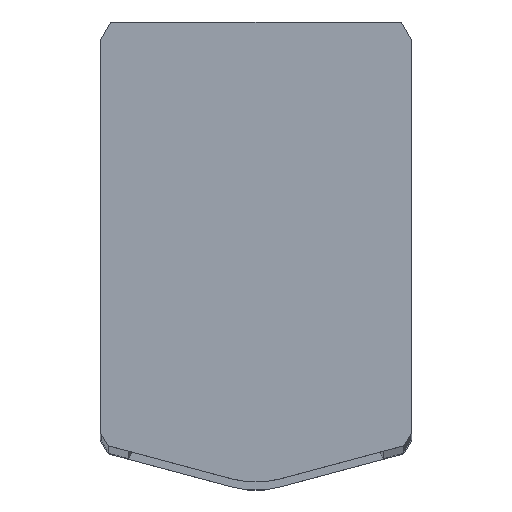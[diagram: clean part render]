
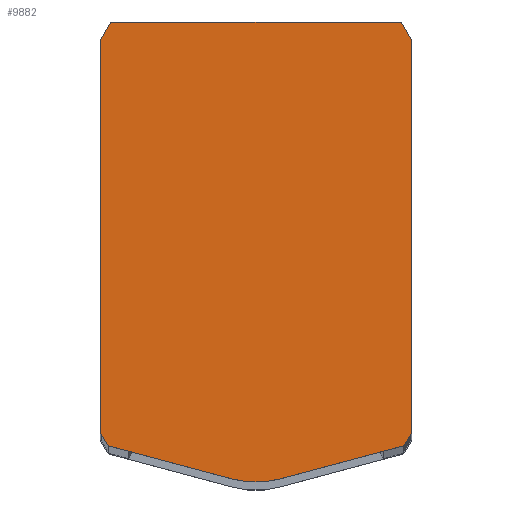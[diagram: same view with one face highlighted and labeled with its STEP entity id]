
A CAD part, top view. The second image highlights one B-rep face of the part: STEP entity #9882.
In plain terms, the highlighted planar face has unit normal (0, 0, 1).
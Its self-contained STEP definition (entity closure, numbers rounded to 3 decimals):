
#68 = EDGE_CURVE ( 'NONE', #7176, #3664, #5459, .T. ) ;
#183 = VECTOR ( 'NONE', #1050, 1000. ) ;
#388 = EDGE_LOOP ( 'NONE', ( #3106, #10863, #4552, #2708, #3976, #11197, #8753, #3258, #2324, #4873 ) ) ;
#761 = VECTOR ( 'NONE', #6496, 1000. ) ;
#818 = VERTEX_POINT ( 'NONE', #1181 ) ;
#1050 = DIRECTION ( 'NONE',  ( 0.5, -0.866, 0. ) ) ;
#1131 = CARTESIAN_POINT ( 'NONE',  ( 59.898, 88.863, 1008. ) ) ;
#1181 = CARTESIAN_POINT ( 'NONE',  ( -7.898, 88.863, 1008. ) ) ;
#1415 = CARTESIAN_POINT ( 'NONE',  ( 31.176, -6.431, 1008. ) ) ;
#1653 = CARTESIAN_POINT ( 'NONE',  ( 59.898, 88.863, 1008. ) ) ;
#1721 = VECTOR ( 'NONE', #3907, 1000. ) ;
#1850 = EDGE_CURVE ( 'NONE', #8459, #818, #10494, .T. ) ;
#1868 = LINE ( 'NONE', #2962, #761 ) ;
#1873 = VERTEX_POINT ( 'NONE', #2640 ) ;
#2059 = EDGE_CURVE ( 'NONE', #9901, #8459, #6445, .T. ) ;
#2324 = ORIENTED_EDGE ( 'NONE', *, *, #5188, .T. ) ;
#2437 = CARTESIAN_POINT ( 'NONE',  ( 20.824, -6.431, 1008. ) ) ;
#2440 = LINE ( 'NONE', #1415, #5086 ) ;
#2613 = CARTESIAN_POINT ( 'NONE',  ( 57.567, 92.9, 1008. ) ) ;
#2640 = CARTESIAN_POINT ( 'NONE',  ( 31.176, -6.431, 1008. ) ) ;
#2708 = ORIENTED_EDGE ( 'NONE', *, *, #10498, .T. ) ;
#2893 = EDGE_CURVE ( 'NONE', #5451, #8282, #9506, .T. ) ;
#2962 = CARTESIAN_POINT ( 'NONE',  ( 58.156, 0.798, 1008. ) ) ;
#3056 = DIRECTION ( 'NONE',  ( 0., -1., 0. ) ) ;
#3106 = ORIENTED_EDGE ( 'NONE', *, *, #8153, .T. ) ;
#3231 = CARTESIAN_POINT ( 'NONE',  ( -5.567, 92.9, 1008. ) ) ;
#3258 = ORIENTED_EDGE ( 'NONE', *, *, #4055, .T. ) ;
#3350 = DIRECTION ( 'NONE',  ( -0.5, 0.866, 0. ) ) ;
#3384 = CARTESIAN_POINT ( 'NONE',  ( -6.156, 0.798, 1008. ) ) ;
#3406 = DIRECTION ( 'NONE',  ( 1., 0., 0. ) ) ;
#3522 = AXIS2_PLACEMENT_3D ( 'NONE', #10444, #6941, #3406 ) ;
#3566 = CARTESIAN_POINT ( 'NONE',  ( -7.898, 3.815, 1008. ) ) ;
#3664 = VERTEX_POINT ( 'NONE', #10023 ) ;
#3835 = CARTESIAN_POINT ( 'NONE',  ( -7.898, 3.815, 1008. ) ) ;
#3866 = LINE ( 'NONE', #1653, #10162 ) ;
#3907 = DIRECTION ( 'NONE',  ( -1., 0., 0. ) ) ;
#3976 = ORIENTED_EDGE ( 'NONE', *, *, #68, .T. ) ;
#4055 = EDGE_CURVE ( 'NONE', #1873, #7348, #2440, .T. ) ;
#4280 = CARTESIAN_POINT ( 'NONE',  ( 58.156, 0.798, 1008. ) ) ;
#4295 = CARTESIAN_POINT ( 'NONE',  ( 59.898, 3.815, 1008. ) ) ;
#4330 = CARTESIAN_POINT ( 'NONE',  ( -5.567, 92.9, 1008. ) ) ;
#4427 = DIRECTION ( 'NONE',  ( 0., 1., 0. ) ) ;
#4552 = ORIENTED_EDGE ( 'NONE', *, *, #1850, .T. ) ;
#4856 = LINE ( 'NONE', #3384, #9342 ) ;
#4873 = ORIENTED_EDGE ( 'NONE', *, *, #2893, .T. ) ;
#4973 = DIRECTION ( 'NONE',  ( 0.966, 0.259, 0. ) ) ;
#5086 = VECTOR ( 'NONE', #4973, 1000. ) ;
#5188 = EDGE_CURVE ( 'NONE', #7348, #5451, #1868, .T. ) ;
#5211 = CARTESIAN_POINT ( 'NONE',  ( 26., 12.888, 1008. ) ) ;
#5345 = CARTESIAN_POINT ( 'NONE',  ( 59.898, 3.815, 1008. ) ) ;
#5451 = VERTEX_POINT ( 'NONE', #4295 ) ;
#5459 = LINE ( 'NONE', #3566, #183 ) ;
#5940 = DIRECTION ( 'NONE',  ( 0.966, -0.259, 0. ) ) ;
#6094 = DIRECTION ( 'NONE',  ( 1., 0., 0. ) ) ;
#6104 = CIRCLE ( 'NONE', #3522, 20. ) ;
#6445 = LINE ( 'NONE', #7546, #1721 ) ;
#6496 = DIRECTION ( 'NONE',  ( 0.5, 0.866, 0. ) ) ;
#6941 = DIRECTION ( 'NONE',  ( 0., 0., 1. ) ) ;
#6952 = VERTEX_POINT ( 'NONE', #2437 ) ;
#7119 = DIRECTION ( 'NONE',  ( 0., 0., 1. ) ) ;
#7176 = VERTEX_POINT ( 'NONE', #3835 ) ;
#7326 = EDGE_CURVE ( 'NONE', #6952, #1873, #6104, .T. ) ;
#7348 = VERTEX_POINT ( 'NONE', #4280 ) ;
#7506 = CARTESIAN_POINT ( 'NONE',  ( -7.898, 88.863, 1008. ) ) ;
#7546 = CARTESIAN_POINT ( 'NONE',  ( 57.567, 92.9, 1008. ) ) ;
#8153 = EDGE_CURVE ( 'NONE', #8282, #9901, #3866, .T. ) ;
#8282 = VERTEX_POINT ( 'NONE', #1131 ) ;
#8459 = VERTEX_POINT ( 'NONE', #3231 ) ;
#8753 = ORIENTED_EDGE ( 'NONE', *, *, #7326, .T. ) ;
#8874 = DIRECTION ( 'NONE',  ( -0.5, -0.866, 0. ) ) ;
#9342 = VECTOR ( 'NONE', #5940, 1000. ) ;
#9394 = VECTOR ( 'NONE', #8874, 1000. ) ;
#9506 = LINE ( 'NONE', #5345, #10610 ) ;
#9590 = VECTOR ( 'NONE', #3056, 1000. ) ;
#9664 = AXIS2_PLACEMENT_3D ( 'NONE', #5211, #7119, #6094 ) ;
#9748 = PLANE ( 'NONE',  #9664 ) ;
#9876 = LINE ( 'NONE', #7506, #9590 ) ;
#9882 = ADVANCED_FACE ( 'NONE', ( #11090 ), #9748, .T. ) ;
#9901 = VERTEX_POINT ( 'NONE', #2613 ) ;
#10023 = CARTESIAN_POINT ( 'NONE',  ( -6.156, 0.798, 1008. ) ) ;
#10162 = VECTOR ( 'NONE', #3350, 1000. ) ;
#10418 = EDGE_CURVE ( 'NONE', #3664, #6952, #4856, .T. ) ;
#10444 = CARTESIAN_POINT ( 'NONE',  ( 26., 12.888, 1008. ) ) ;
#10494 = LINE ( 'NONE', #4330, #9394 ) ;
#10498 = EDGE_CURVE ( 'NONE', #818, #7176, #9876, .T. ) ;
#10610 = VECTOR ( 'NONE', #4427, 1000. ) ;
#10863 = ORIENTED_EDGE ( 'NONE', *, *, #2059, .T. ) ;
#11090 = FACE_OUTER_BOUND ( 'NONE', #388, .T. ) ;
#11197 = ORIENTED_EDGE ( 'NONE', *, *, #10418, .T. ) ;
